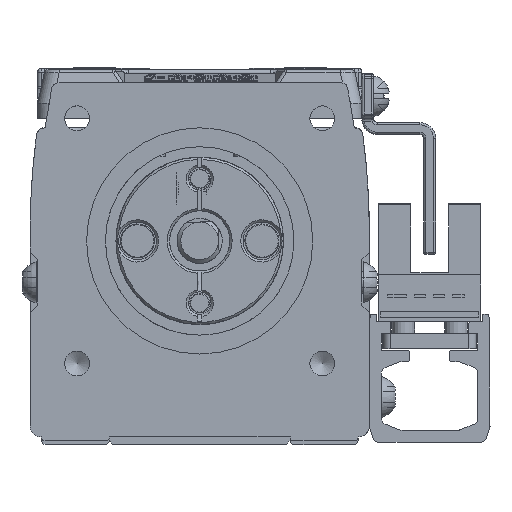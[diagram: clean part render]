
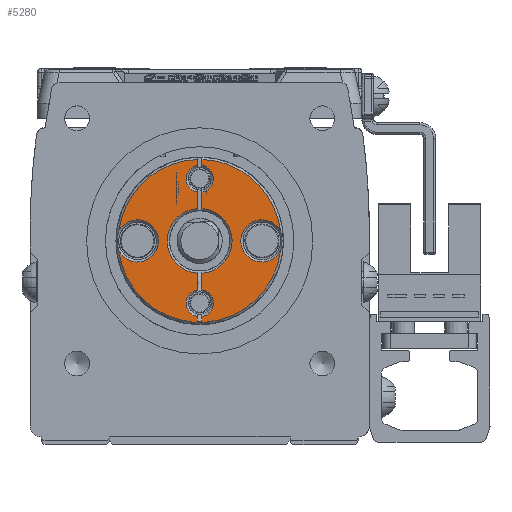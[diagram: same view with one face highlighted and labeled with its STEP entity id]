
A CAD part, left-side view. The second image highlights one B-rep face of the part: STEP entity #5280.
In plain terms, the highlighted planar face has unit normal (-1, 0, 0) as drawn and (1, 0, 0) by its records, which use the part's own axes.
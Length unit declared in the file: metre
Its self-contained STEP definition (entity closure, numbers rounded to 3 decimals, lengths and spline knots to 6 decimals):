
#5280=ADVANCED_FACE('',(#11314),#11315,.F.);
#11314=FACE_OUTER_BOUND('',#20220,.T.);
#11315=PLANE('',#20221);
#20220=EDGE_LOOP('',(#33181,#33182,#33183,#33184,#33185,#33186,#33187,#33188,#33189,#33190,#33191,#33192,#33193,#33194,#33195,#33196,#33197,#33198,#33199,#33200));
#20221=AXIS2_PLACEMENT_3D('',#33201,#33202,#33203);
#33181=ORIENTED_EDGE('',*,*,#51905,.F.);
#33182=ORIENTED_EDGE('',*,*,#49779,.T.);
#33183=ORIENTED_EDGE('',*,*,#51906,.F.);
#33184=ORIENTED_EDGE('',*,*,#51907,.F.);
#33185=ORIENTED_EDGE('',*,*,#51908,.T.);
#33186=ORIENTED_EDGE('',*,*,#51909,.T.);
#33187=ORIENTED_EDGE('',*,*,#51910,.F.);
#33188=ORIENTED_EDGE('',*,*,#51911,.F.);
#33189=ORIENTED_EDGE('',*,*,#51912,.F.);
#33190=ORIENTED_EDGE('',*,*,#50951,.T.);
#33191=ORIENTED_EDGE('',*,*,#51913,.F.);
#33192=ORIENTED_EDGE('',*,*,#51914,.F.);
#33193=ORIENTED_EDGE('',*,*,#51915,.F.);
#33194=ORIENTED_EDGE('',*,*,#51916,.F.);
#33195=ORIENTED_EDGE('',*,*,#51917,.F.);
#33196=ORIENTED_EDGE('',*,*,#51918,.F.);
#33197=ORIENTED_EDGE('',*,*,#51919,.F.);
#33198=ORIENTED_EDGE('',*,*,#51920,.F.);
#33199=ORIENTED_EDGE('',*,*,#51921,.T.);
#33200=ORIENTED_EDGE('',*,*,#51922,.F.);
#33201=CARTESIAN_POINT('',(0.0,0.0,0.));
#33202=DIRECTION('',(-1.0,0.,0.0));
#33203=DIRECTION('',(0.,-1.0,0.0));
#49779=EDGE_CURVE('',#57931,#57935,#57937,.T.);
#50951=EDGE_CURVE('',#59967,#59971,#59973,.T.);
#51905=EDGE_CURVE('',#57931,#61539,#61540,.F.);
#51906=EDGE_CURVE('',#61541,#57935,#61542,.F.);
#51907=EDGE_CURVE('',#61543,#61541,#61544,.T.);
#51908=EDGE_CURVE('',#61543,#61545,#61546,.F.);
#51909=EDGE_CURVE('',#61545,#61547,#61548,.T.);
#51910=EDGE_CURVE('',#61549,#61547,#61550,.F.);
#51911=EDGE_CURVE('',#61551,#61549,#61552,.T.);
#51912=EDGE_CURVE('',#59967,#61551,#61553,.T.);
#51913=EDGE_CURVE('',#61554,#59971,#61555,.F.);
#51914=EDGE_CURVE('',#61556,#61554,#61557,.T.);
#51915=EDGE_CURVE('',#61558,#61556,#61559,.T.);
#51916=EDGE_CURVE('',#61560,#61558,#61561,.T.);
#51917=EDGE_CURVE('',#61562,#61560,#61563,.T.);
#51918=EDGE_CURVE('',#61564,#61562,#61565,.T.);
#51919=EDGE_CURVE('',#61566,#61564,#61567,.T.);
#51920=EDGE_CURVE('',#61568,#61566,#61569,.T.);
#51921=EDGE_CURVE('',#61568,#61570,#61571,.F.);
#51922=EDGE_CURVE('',#61539,#61570,#61572,.T.);
#57931=VERTEX_POINT('',#69928);
#57935=VERTEX_POINT('',#69935);
#57937=CIRCLE('',#69940,0.0043);
#59967=VERTEX_POINT('',#73153);
#59971=VERTEX_POINT('',#73160);
#59973=CIRCLE('',#73165,0.0043);
#61539=VERTEX_POINT('',#75425);
#61540=LINE('',#75426,#75427);
#61541=VERTEX_POINT('',#75428);
#61542=LINE('',#75429,#75430);
#61543=VERTEX_POINT('',#75431);
#61544=CIRCLE('',#75432,0.0018);
#61545=VERTEX_POINT('',#75433);
#61546=LINE('',#75434,#75435);
#61547=VERTEX_POINT('',#75436);
#61548=LINE('',#75437,#75438);
#61549=VERTEX_POINT('',#75439);
#61550=LINE('',#75440,#75441);
#61551=VERTEX_POINT('',#75442);
#61552=CIRCLE('',#75443,0.0018);
#61553=LINE('',#75444,#75445);
#61554=VERTEX_POINT('',#75446);
#61555=LINE('',#75447,#75448);
#61556=VERTEX_POINT('',#75449);
#61557=CIRCLE('',#75450,0.0018);
#61558=VERTEX_POINT('',#75451);
#61559=LINE('',#75452,#75453);
#61560=VERTEX_POINT('',#75454);
#61561=CIRCLE('',#75455,0.0108);
#61562=VERTEX_POINT('',#75456);
#61563=CIRCLE('',#75457,0.0028);
#61564=VERTEX_POINT('',#75458);
#61565=CIRCLE('',#75459,0.0108);
#61566=VERTEX_POINT('',#75460);
#61567=CIRCLE('',#75461,0.0028);
#61568=VERTEX_POINT('',#75462);
#61569=CIRCLE('',#75463,0.0108);
#61570=VERTEX_POINT('',#75464);
#61571=LINE('',#75465,#75466);
#61572=CIRCLE('',#75467,0.0018);
#69928=CARTESIAN_POINT('',(0.,0.00429,-0.0003));
#69935=CARTESIAN_POINT('',(0.,-0.00429,-0.0003));
#69940=AXIS2_PLACEMENT_3D('',#86964,#86965,#86966);
#73153=CARTESIAN_POINT('',(0.,-0.00429,0.0003));
#73160=CARTESIAN_POINT('',(0.0,0.00429,0.0003));
#73165=AXIS2_PLACEMENT_3D('',#88551,#88552,#88553);
#75425=CARTESIAN_POINT('',(0.,0.006475,-0.0003));
#75426=CARTESIAN_POINT('',(0.0,0.0,-0.0003));
#75427=VECTOR('',#89748,1.0);
#75428=CARTESIAN_POINT('',(0.,-0.006475,-0.0003));
#75429=CARTESIAN_POINT('',(0.0,0.0,-0.0003));
#75430=VECTOR('',#89749,1.0);
#75431=CARTESIAN_POINT('',(0.,-0.010025,-0.0003));
#75432=AXIS2_PLACEMENT_3D('',#89750,#89751,#89752);
#75433=CARTESIAN_POINT('',(0.,-0.010642,-0.0003));
#75434=CARTESIAN_POINT('',(0.0,0.0025,-0.0003));
#75435=VECTOR('',#89753,1.0);
#75436=CARTESIAN_POINT('',(0.,-0.010642,0.0003));
#75437=CARTESIAN_POINT('',(0.,-0.010642,0.0003));
#75438=VECTOR('',#89754,1.0);
#75439=CARTESIAN_POINT('',(0.,-0.010025,0.0003));
#75440=CARTESIAN_POINT('',(0.0,0.0025,0.0003));
#75441=VECTOR('',#89755,1.0);
#75442=CARTESIAN_POINT('',(0.,-0.006475,0.0003));
#75443=AXIS2_PLACEMENT_3D('',#89756,#89757,#89758);
#75444=CARTESIAN_POINT('',(0.0,0.0,0.0003));
#75445=VECTOR('',#89759,1.0);
#75446=CARTESIAN_POINT('',(0.0,0.006475,0.0003));
#75447=CARTESIAN_POINT('',(0.0,0.0025,0.0003));
#75448=VECTOR('',#89760,1.0);
#75449=CARTESIAN_POINT('',(0.,0.010025,0.0003));
#75450=AXIS2_PLACEMENT_3D('',#89761,#89762,#89763);
#75451=CARTESIAN_POINT('',(0.,0.010796,0.0003));
#75452=CARTESIAN_POINT('',(0.0,0.0,0.0003));
#75453=VECTOR('',#89764,1.0);
#75454=CARTESIAN_POINT('',(0.,0.001321,0.010719));
#75455=AXIS2_PLACEMENT_3D('',#89765,#89766,#89767);
#75456=CARTESIAN_POINT('',(0.,-0.001321,0.010719));
#75457=AXIS2_PLACEMENT_3D('',#89768,#89769,#89770);
#75458=CARTESIAN_POINT('',(0.,-0.001321,-0.010719));
#75459=AXIS2_PLACEMENT_3D('',#89771,#89772,#89773);
#75460=CARTESIAN_POINT('',(0.,0.001321,-0.010719));
#75461=AXIS2_PLACEMENT_3D('',#89774,#89775,#89776);
#75462=CARTESIAN_POINT('',(0.,0.010796,-0.0003));
#75463=AXIS2_PLACEMENT_3D('',#89777,#89778,#89779);
#75464=CARTESIAN_POINT('',(0.,0.010025,-0.0003));
#75465=CARTESIAN_POINT('',(0.0,0.0025,-0.0003));
#75466=VECTOR('',#89780,1.0);
#75467=AXIS2_PLACEMENT_3D('',#89781,#89782,#89783);
#86964=CARTESIAN_POINT('',(0.,0.,0.));
#86965=DIRECTION('',(-1.0,0.,0.0));
#86966=DIRECTION('',(0.,-1.0,0.0));
#88551=CARTESIAN_POINT('',(0.,0.,0.));
#88552=DIRECTION('',(-1.0,0.,0.0));
#88553=DIRECTION('',(0.,-1.0,0.0));
#89748=DIRECTION('',(0.,-1.0,0.0));
#89749=DIRECTION('',(0.,-1.0,0.0));
#89750=CARTESIAN_POINT('',(0.0,-0.00825,0.));
#89751=DIRECTION('',(1.0,0.0,0.0));
#89752=DIRECTION('',(0.0,0.0,-1.0));
#89753=DIRECTION('',(0.0,1.0,0.0));
#89754=DIRECTION('',(0.0,0.0,1.0));
#89755=DIRECTION('',(0.0,1.0,0.0));
#89756=CARTESIAN_POINT('',(0.0,-0.00825,0.));
#89757=DIRECTION('',(1.0,0.0,0.0));
#89758=DIRECTION('',(0.0,0.0,-1.0));
#89759=DIRECTION('',(0.,-1.0,0.0));
#89760=DIRECTION('',(0.0,1.0,0.0));
#89761=CARTESIAN_POINT('',(0.0,0.00825,0.));
#89762=DIRECTION('',(1.0,0.0,0.0));
#89763=DIRECTION('',(0.0,0.0,-1.0));
#89764=DIRECTION('',(0.,-1.0,0.0));
#89765=CARTESIAN_POINT('',(0.,0.0,0.));
#89766=DIRECTION('',(-1.0,0.0,0.0));
#89767=DIRECTION('',(0.0,0.0,1.0));
#89768=CARTESIAN_POINT('',(0.0,0.,0.00825));
#89769=DIRECTION('',(1.0,0.,0.0));
#89770=DIRECTION('',(0.,1.0,0.0));
#89771=CARTESIAN_POINT('',(0.,0.0,0.));
#89772=DIRECTION('',(-1.0,0.0,0.0));
#89773=DIRECTION('',(0.0,0.0,1.0));
#89774=CARTESIAN_POINT('',(0.,0.,-0.00825));
#89775=DIRECTION('',(1.0,0.,0.0));
#89776=DIRECTION('',(0.,1.0,0.0));
#89777=CARTESIAN_POINT('',(0.,0.0,0.));
#89778=DIRECTION('',(-1.0,0.0,0.0));
#89779=DIRECTION('',(0.0,0.0,1.0));
#89780=DIRECTION('',(0.0,1.0,0.0));
#89781=CARTESIAN_POINT('',(0.0,0.00825,0.));
#89782=DIRECTION('',(1.0,0.0,0.0));
#89783=DIRECTION('',(0.0,0.0,-1.0));
